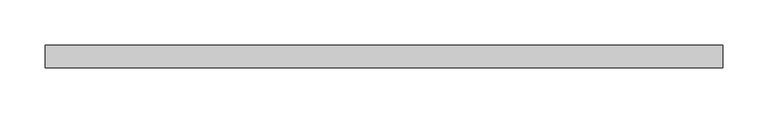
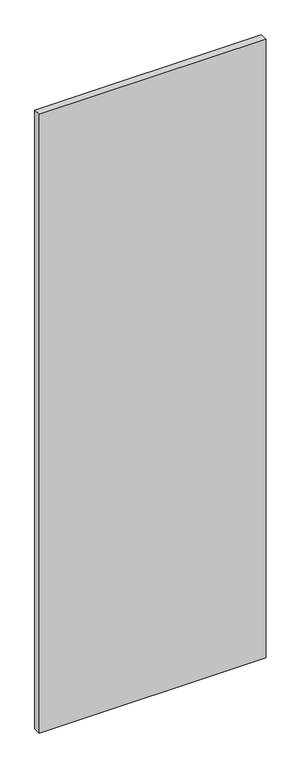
"""IFC4 building model written with IfcOpenShell, lengths in millimetres: plate geometry, 系统嵌板 : 玻璃."""

from ifc_helpers import new_model, si_unit, origin, origin_with_axes, place, context, project, spatial, polyline, outline, extrude, source, transform, mapped, element, save


def plate_0077e03b(model_context):
    return source(origin(), model_context, "Body", "SweptSolid", [
        extrude(outline(polyline([(376.485496, -12.5), (-376.485496, -12.5), (-376.485496, 12.5), (376.485496, 12.5), (376.485496, -12.5)])), origin_with_axes(), (0.0, 0.0, 1.0), 2170.0),
    ])


if __name__ == "__main__":
    model = new_model("IFC4")
    model_context = context("Model", 3, world=origin())
    ifc_project = project(units=[si_unit("LENGTHUNIT", "METRE", prefix="MILLI")], contexts=[model_context])
    site = spatial("IfcSite", under=ifc_project)
    building = spatial("IfcBuilding", under=site)
    placement = place(None, origin())
    plate_shape = plate_0077e03b(model_context)
    element("IfcPlate", 1, ObjectType="系统嵌板 : 玻璃", at=placement, inside=building, context=model_context, shape_type="MappedRepresentation", body=[
        mapped(plate_shape, transform((0.0, 0.0, 0.0), x_axis=(1.0, 0.0, 0.0), y_axis=(0.0, 1.0, 0.0), z_axis=(0.0, 0.0, 1.0))),
    ])
    save(model, "model.ifc")
